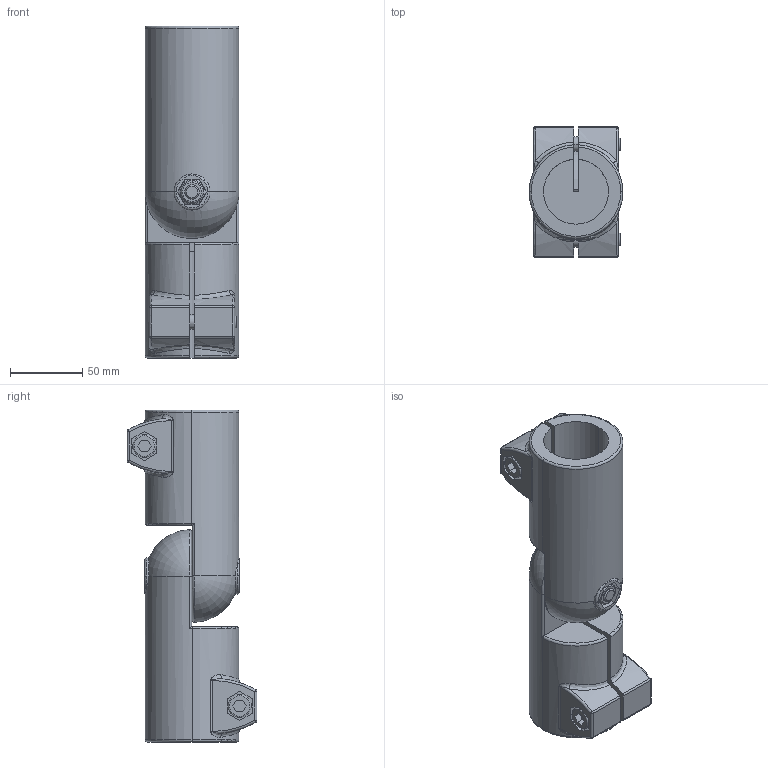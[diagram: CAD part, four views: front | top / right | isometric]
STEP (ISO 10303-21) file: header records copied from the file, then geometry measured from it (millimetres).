
FILE_DESCRIPTION (( 'STEP AP214' ), '1' );
FILE_NAME ('286-B45-B48-S-2-BL.step', '2021-12-02T12:15:38', ( '' ), ( '' ), 'SwSTEP 2.0', 'SolidWorks 2019', '' );
FILE_SCHEMA (( 'AUTOMOTIVE_DESIGN' ));
Length unit declared in the file: millimetre
Products named in the file (3): WB276_1^WB286_B48-MZ-2-BL; 286-B45-B48-S-2-BL; WB276^WB286_B45-IV-2-BL
Assembly tree (2 placements, depth 2):
  286-B45-B48-S-2-BL
    WB276^WB286_B45-IV-2-BL
    WB276_1^WB286_B48-MZ-2-BL
Bounding box: 65 x 90 x 230 mm (x, y, z)
Volume: 507504.1 mm3; surface area: 110691.7 mm2
Topology: 2 solids, 2 shells, 401 faces, 968 edges, 590 vertices
Faces by surface type: plane 195, cylinder 108, torus 46, cone 24, bspline 20, sphere 8
Entity records: 15770 total; most frequent: CARTESIAN_POINT 5474, ORIENTED_EDGE 1920, DIRECTION 1880, EDGE_CURVE 960, AXIS2_PLACEMENT_3D 738, VERTEX_POINT 590, EDGE_LOOP 434, VECTOR 404
